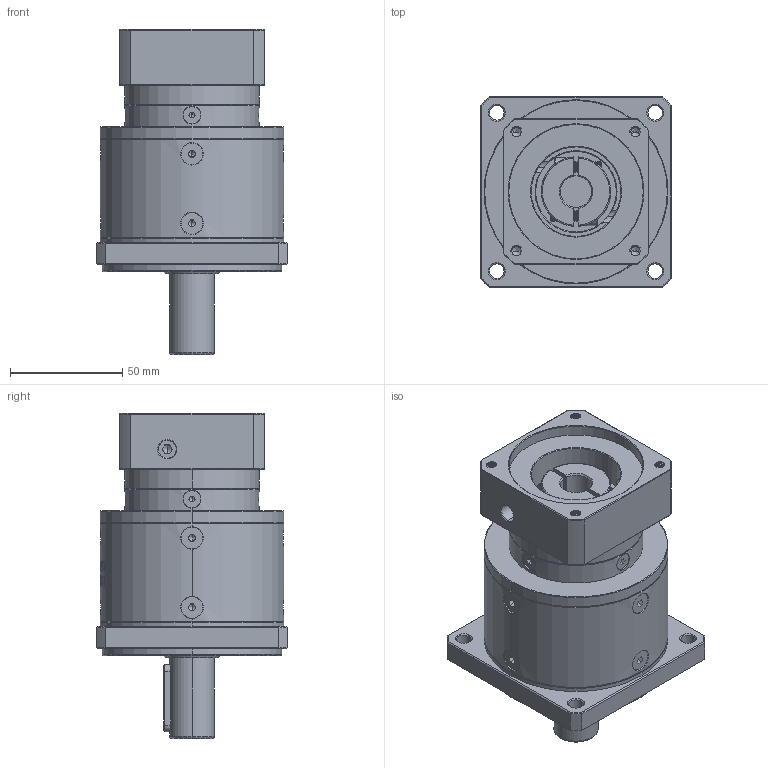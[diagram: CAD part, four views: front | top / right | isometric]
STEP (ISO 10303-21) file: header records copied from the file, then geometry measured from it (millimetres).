
FILE_DESCRIPTION (( 'STEP AP214' ), '1' );
FILE_NAME ('ZF080-D20-L2-P2-14-60-75-M5.step', '2023-08-19T06:53:05', ( '' ), ( '' ), 'SwSTEP 2.0', 'SolidWorks 2016', '' );
FILE_SCHEMA (( 'AUTOMOTIVE_DESIGN' ));
Length unit declared in the file: millimetre
Products named in the file (1): ZF080-D20-L2-P2-14-60-75-M5
Bounding box: 85 x 85 x 145 mm (x, y, z)
Volume: 481884.9 mm3; surface area: 70244.7 mm2
Topology: 18 solids, 18 shells, 2298 faces, 6052 edges, 3856 vertices
Faces by surface type: plane 1128, cylinder 407, bspline 394, cone 327, torus 42
Entity records: 122164 total; most frequent: CARTESIAN_POINT 45051, ORIENTED_EDGE 12028, DIRECTION 9049, EDGE_CURVE 6014, VERTEX_POINT 3856, LINE 3197, VECTOR 3197, AXIS2_PLACEMENT_3D 2926
